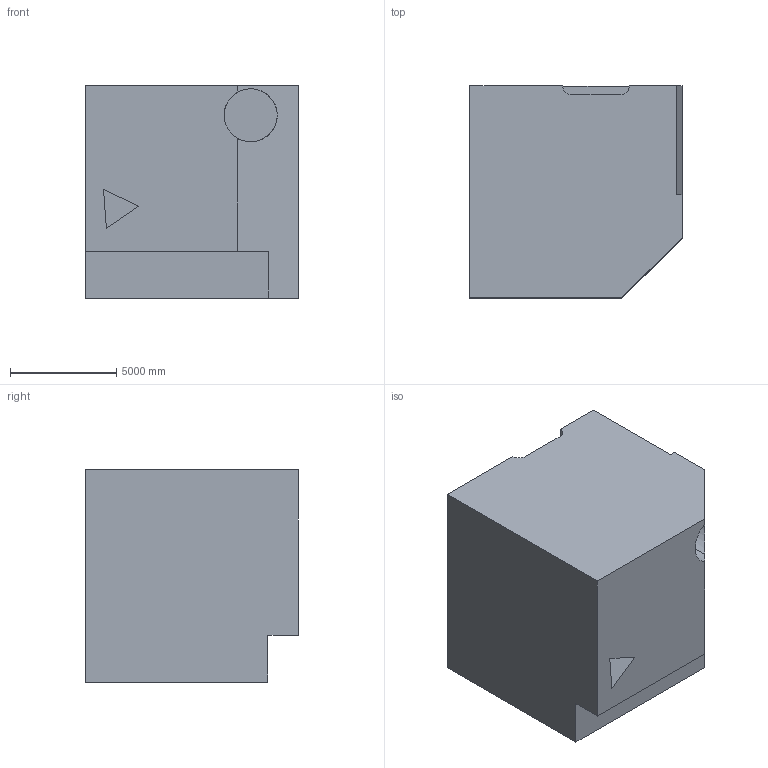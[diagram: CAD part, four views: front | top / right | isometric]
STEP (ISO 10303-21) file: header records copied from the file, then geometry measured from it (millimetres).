
FILE_DESCRIPTION (( 'STEP AP203' ), '1' );
FILE_NAME ('161.STEP', '2022-09-05T15:50:08', ( 'user' ), ( '' ), 'SwSTEP 2.0', 'SolidWorks 2021', '' );
FILE_SCHEMA (( 'CONFIG_CONTROL_DESIGN' ));
Length unit declared in the file: centimetre
Products named in the file (1): 161
Bounding box: 10000 x 10000 x 10000 mm (x, y, z)
Volume: 891804575171.2 mm3; surface area: 663284094.4 mm2
Topology: 1 solids, 1 shells, 26 faces, 66 edges, 44 vertices
Faces by surface type: plane 22, cylinder 4
Entity records: 854 total; most frequent: CARTESIAN_POINT 146, ORIENTED_EDGE 132, DIRECTION 124, EDGE_CURVE 66, LINE 56, VECTOR 56, VERTEX_POINT 44, AXIS2_PLACEMENT_3D 34
